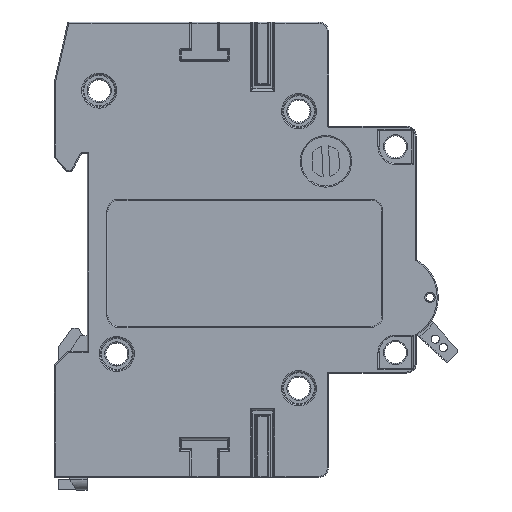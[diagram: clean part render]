
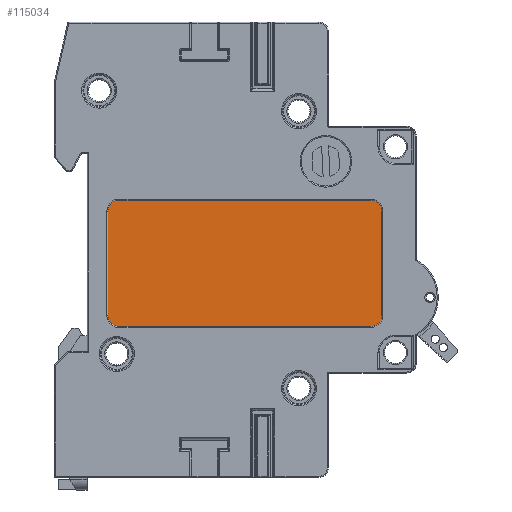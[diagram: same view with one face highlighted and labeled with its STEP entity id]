
A CAD part, front view. The second image highlights one B-rep face of the part: STEP entity #115034.
In plain terms, the highlighted planar face has unit normal (0, -1, 0).
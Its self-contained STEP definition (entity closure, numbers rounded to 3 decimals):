
#1136 = CARTESIAN_POINT ( 'NONE',  ( 57.7, 0., 50.3 ) ) ;
#1303 = LINE ( 'NONE', #72773, #14923 ) ;
#2015 = EDGE_CURVE ( 'NONE', #82811, #148867, #99024, .T. ) ;
#3159 = VERTEX_POINT ( 'NONE', #55501 ) ;
#3658 = EDGE_CURVE ( 'NONE', #125652, #4652, #143108, .T. ) ;
#4260 = CARTESIAN_POINT ( 'NONE',  ( 57.7, 0., 27.3 ) ) ;
#4652 = VERTEX_POINT ( 'NONE', #25825 ) ;
#7204 = AXIS2_PLACEMENT_3D ( 'NONE', #37757, #109890, #85633 ) ;
#12355 = EDGE_CURVE ( 'NONE', #78741, #12402, #124941, .T. ) ;
#12402 = VERTEX_POINT ( 'NONE', #62855 ) ;
#13503 = AXIS2_PLACEMENT_3D ( 'NONE', #124070, #112291, #17372 ) ;
#14923 = VECTOR ( 'NONE', #87615, 1000. ) ;
#15488 = DIRECTION ( 'NONE',  ( 0., 0., 1. ) ) ;
#17372 = DIRECTION ( 'NONE',  ( 0., 0., -1. ) ) ;
#18601 = VECTOR ( 'NONE', #78883, 1000. ) ;
#22154 = CARTESIAN_POINT ( 'NONE',  ( 59.7, 0., 29.3 ) ) ;
#22156 = CARTESIAN_POINT ( 'NONE',  ( 11.8, 0., 29.3 ) ) ;
#22445 = DIRECTION ( 'NONE',  ( -1., 0., 0. ) ) ;
#22505 = ORIENTED_EDGE ( 'NONE', *, *, #113625, .T. ) ;
#23977 = LINE ( 'NONE', #1136, #132475 ) ;
#25038 = EDGE_LOOP ( 'NONE', ( #150963, #26690, #56972, #64481, #76344, #154752, #22505, #148149 ) ) ;
#25825 = CARTESIAN_POINT ( 'NONE',  ( 9.8, 0., 29.3 ) ) ;
#26554 = VERTEX_POINT ( 'NONE', #141514 ) ;
#26690 = ORIENTED_EDGE ( 'NONE', *, *, #121021, .T. ) ;
#30042 = EDGE_CURVE ( 'NONE', #12402, #3159, #23977, .T. ) ;
#36928 = CARTESIAN_POINT ( 'NONE',  ( 9.8, 0., 48.3 ) ) ;
#37757 = CARTESIAN_POINT ( 'NONE',  ( 57.7, 0., 48.3 ) ) ;
#39033 = DIRECTION ( 'NONE',  ( 0., -1., 0. ) ) ;
#42901 = CARTESIAN_POINT ( 'NONE',  ( 59.7, 0., 48.3 ) ) ;
#46902 = CARTESIAN_POINT ( 'NONE',  ( 11.8, 0., 48.3 ) ) ;
#55501 = CARTESIAN_POINT ( 'NONE',  ( 11.8, 0., 50.3 ) ) ;
#56972 = ORIENTED_EDGE ( 'NONE', *, *, #12355, .T. ) ;
#62855 = CARTESIAN_POINT ( 'NONE',  ( 57.7, 0., 50.3 ) ) ;
#64481 = ORIENTED_EDGE ( 'NONE', *, *, #30042, .T. ) ;
#64816 = LINE ( 'NONE', #135424, #18601 ) ;
#67507 = CIRCLE ( 'NONE', #127616, 2. ) ;
#70967 = CARTESIAN_POINT ( 'NONE',  ( 9.8, 0., 48.3 ) ) ;
#71840 = VECTOR ( 'NONE', #96030, 1000. ) ;
#72773 = CARTESIAN_POINT ( 'NONE',  ( 59.7, 0., 48.3 ) ) ;
#76344 = ORIENTED_EDGE ( 'NONE', *, *, #120908, .T. ) ;
#78741 = VERTEX_POINT ( 'NONE', #42901 ) ;
#78883 = DIRECTION ( 'NONE',  ( 1., 0., 0. ) ) ;
#80957 = DIRECTION ( 'NONE',  ( 0., -1., 0. ) ) ;
#82811 = VERTEX_POINT ( 'NONE', #4260 ) ;
#82983 = DIRECTION ( 'NONE',  ( 0., -1., 0. ) ) ;
#85633 = DIRECTION ( 'NONE',  ( 0., 0., -1. ) ) ;
#87615 = DIRECTION ( 'NONE',  ( 0., 0., 1. ) ) ;
#91210 = FACE_OUTER_BOUND ( 'NONE', #25038, .T. ) ;
#93720 = CIRCLE ( 'NONE', #13503, 2. ) ;
#96030 = DIRECTION ( 'NONE',  ( 0., 0., -1. ) ) ;
#99024 = CIRCLE ( 'NONE', #104052, 2. ) ;
#104052 = AXIS2_PLACEMENT_3D ( 'NONE', #145735, #39033, #15488 ) ;
#104506 = DIRECTION ( 'NONE',  ( -1., 0., 0. ) ) ;
#109890 = DIRECTION ( 'NONE',  ( 0., -1., 0. ) ) ;
#112291 = DIRECTION ( 'NONE',  ( 0., -1., 0. ) ) ;
#113625 = EDGE_CURVE ( 'NONE', #4652, #26554, #93720, .T. ) ;
#115034 = ADVANCED_FACE ( 'NONE', ( #91210 ), #139047, .T. ) ;
#119062 = DIRECTION ( 'NONE',  ( 0., 0., -1. ) ) ;
#120908 = EDGE_CURVE ( 'NONE', #3159, #125652, #67507, .T. ) ;
#121021 = EDGE_CURVE ( 'NONE', #148867, #78741, #1303, .T. ) ;
#124054 = AXIS2_PLACEMENT_3D ( 'NONE', #22156, #80957, #104506 ) ;
#124070 = CARTESIAN_POINT ( 'NONE',  ( 11.8, 0., 29.3 ) ) ;
#124941 = CIRCLE ( 'NONE', #7204, 2. ) ;
#125652 = VERTEX_POINT ( 'NONE', #36928 ) ;
#127616 = AXIS2_PLACEMENT_3D ( 'NONE', #46902, #82983, #119062 ) ;
#132475 = VECTOR ( 'NONE', #22445, 1000. ) ;
#135424 = CARTESIAN_POINT ( 'NONE',  ( 57.7, 0., 27.3 ) ) ;
#139047 = PLANE ( 'NONE',  #124054 ) ;
#141514 = CARTESIAN_POINT ( 'NONE',  ( 11.8, 0., 27.3 ) ) ;
#143108 = LINE ( 'NONE', #70967, #71840 ) ;
#145735 = CARTESIAN_POINT ( 'NONE',  ( 57.7, 0., 29.3 ) ) ;
#148149 = ORIENTED_EDGE ( 'NONE', *, *, #152911, .T. ) ;
#148867 = VERTEX_POINT ( 'NONE', #22154 ) ;
#150963 = ORIENTED_EDGE ( 'NONE', *, *, #2015, .T. ) ;
#152911 = EDGE_CURVE ( 'NONE', #26554, #82811, #64816, .T. ) ;
#154752 = ORIENTED_EDGE ( 'NONE', *, *, #3658, .T. ) ;
